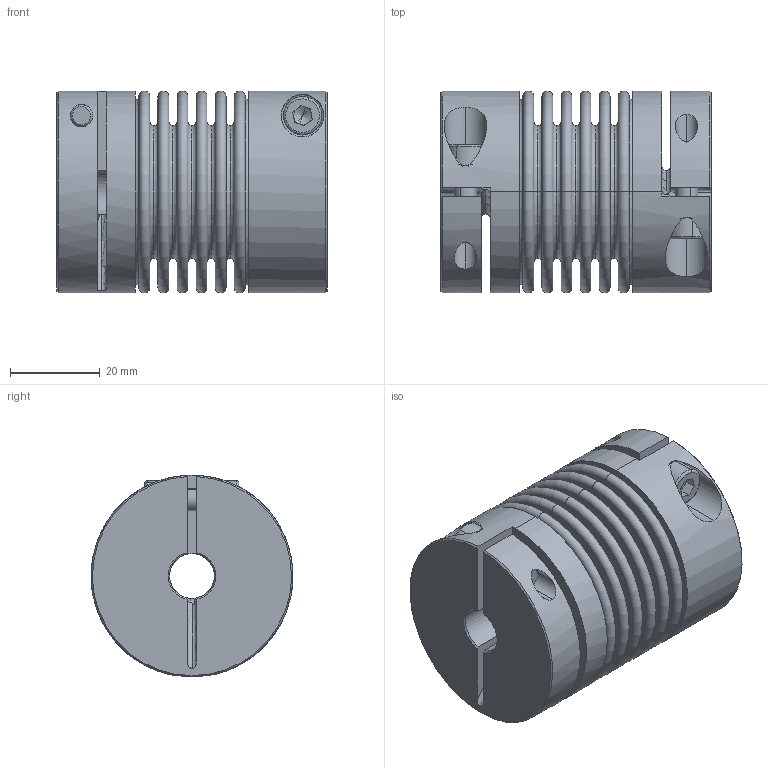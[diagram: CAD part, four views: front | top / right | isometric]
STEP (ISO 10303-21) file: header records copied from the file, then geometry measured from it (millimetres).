
FILE_DESCRIPTION (( 'STEP AP214' ), '1' );
FILE_NAME ('KB4C-18-59.STEP', '2011-01-19T16:58:52', ( '' ), ( 'KAPCAD' ), 'SwSTEP 2.0', 'SolidWorks 2002296', '' );
FILE_SCHEMA (( 'AUTOMOTIVE_DESIGN' ));
Length unit declared in the file: millimetre
Products named in the file (4): KB4C-18-59; BK18_Standard; KN18C_Standard; Socket Head Cap Screw_DIN_DIN 912 M5 x 16 --- 16N
Assembly tree (5 placements, depth 2):
  KB4C-18-59
    KN18C_Standard  x2
    Socket Head Cap Screw_DIN_DIN 912 M5 x 16 --- 16N  x2
    BK18_Standard
Bounding box: 60.27 x 45.01 x 45.01 mm (x, y, z)
Volume: 51872.3 mm3; surface area: 42074.8 mm2
Topology: 5 solids, 5 shells, 216 faces, 482 edges, 298 vertices
Faces by surface type: torus 88, plane 72, cylinder 38, cone 16, bspline 2
Entity records: 5052 total; most frequent: CARTESIAN_POINT 1290, DIRECTION 898, ORIENTED_EDGE 678, AXIS2_PLACEMENT_3D 418, EDGE_CURVE 339, CIRCLE 253, VERTEX_POINT 211, EDGE_LOOP 190
